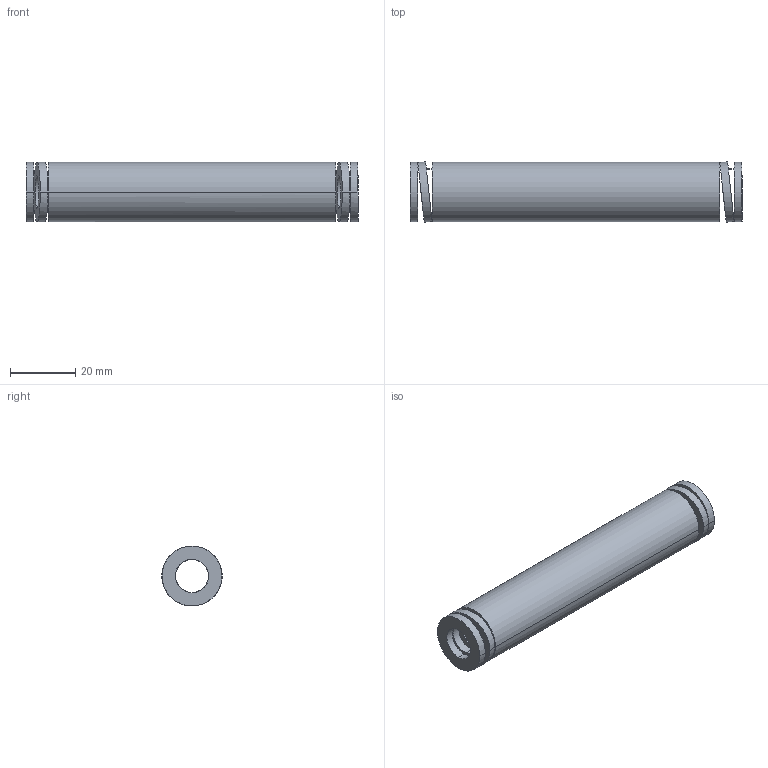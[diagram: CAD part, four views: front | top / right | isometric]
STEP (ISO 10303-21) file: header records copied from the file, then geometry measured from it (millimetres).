
FILE_DESCRIPTION(('CATIA V5 STEP Exchange'),'2;1');
FILE_NAME('C:\Users\Utente\Desktop\IO LAVORO\3D X SITO CF\X SITO\3D files 392B\392-B20-102.stp','2021-08-12T13:47:57+00:00',('none'),('none'),'CATIA Version 5 Release 20 GA (IN-10)','CATIA V5 STEP AP203','none');
FILE_SCHEMA(('CONFIG_CONTROL_DESIGN'));
Length unit declared in the file: millimetre
Products named in the file (1): 392-B20-102
Bounding box: 102 x 18.55 x 18.4 mm (x, y, z)
Volume: 18042 mm3; surface area: 10645.2 mm2
Topology: 1 solids, 1 shells, 38 faces, 92 edges, 64 vertices
Faces by surface type: cylinder 28, plane 10
Entity records: 1602 total; most frequent: CARTESIAN_POINT 721, ORIENTED_EDGE 184, DIRECTION 125, EDGE_CURVE 92, VERTEX_POINT 64, AXIS2_PLACEMENT_3D 60, EDGE_LOOP 56, B_SPLINE_CURVE_WITH_KNOTS 43
